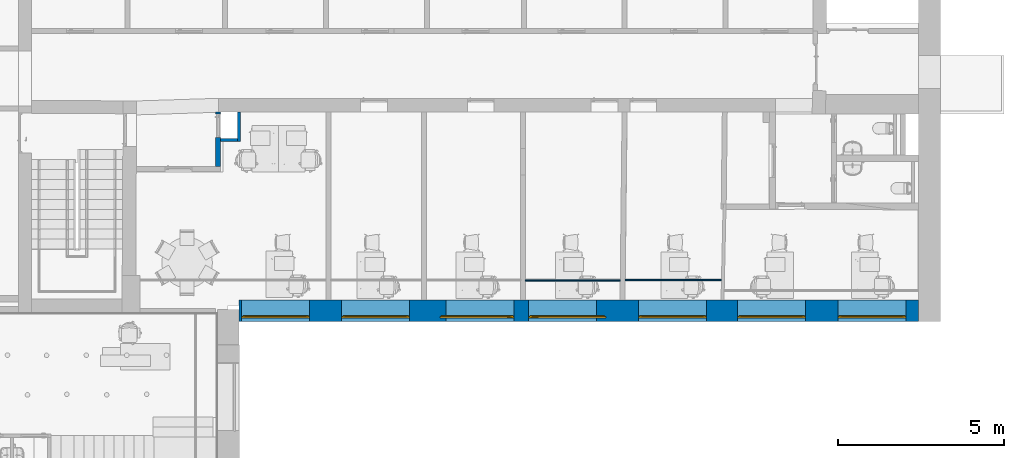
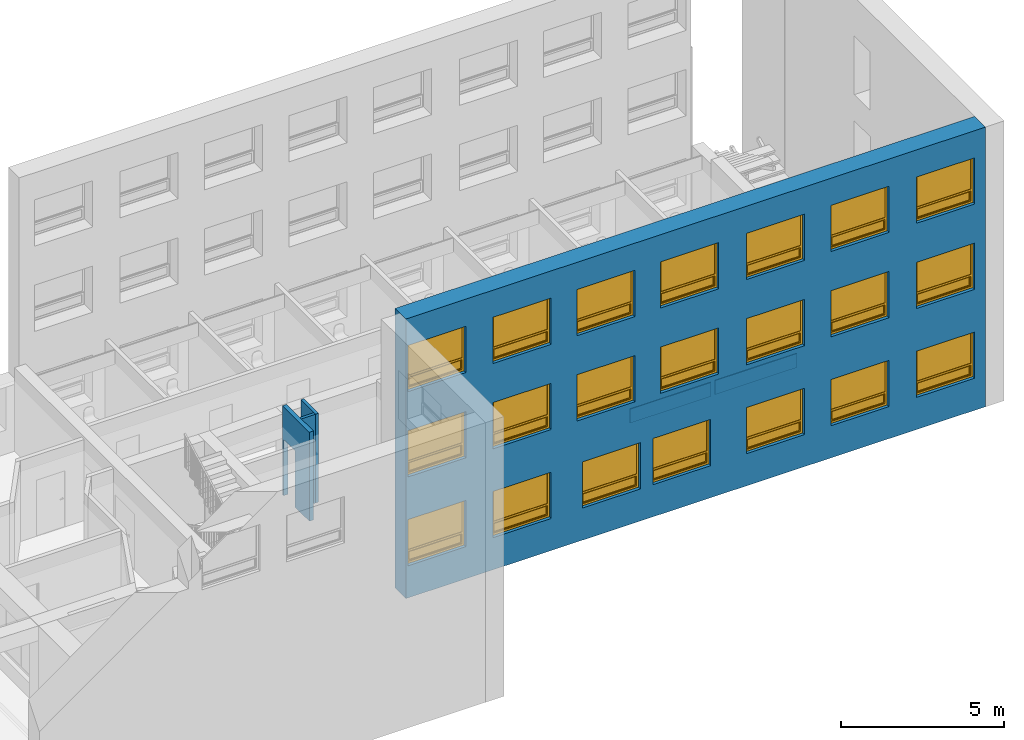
"""IFC2X3 building model written with IfcOpenShell, lengths in millimetres."""

import ifcopenshell
import ifcopenshell.guid

model = None  # the IFC model being written
_history = None  # IfcOwnerHistory: only IFC2X3 demands one
_inside = {}  # id of a spatial element -> (the spatial element, [elements in it])
_under = {}  # id of a project, library or spatial element -> (it, [spatial elements below it])
_declared = {}  # id of a project -> (the project, [libraries it declares])
_typed = {}  # id of a type object -> (the type object, [elements of that type])
_made_of = {}  # id of a material, layer set ... -> (it, [elements and type objects made of it])


def new_model(schema):
    """Start an empty IFC model of exactly this schema.

    Asked for "IFC4X3", IfcOpenShell would pick the latest addendum, in which some entities
    have other attributes; the version numbers below select the first issue.
    IFC2X3 requires an IfcOwnerHistory on every rooted entity: one is made here for all.
    """
    global model, _history
    if schema == "IFC4X3":
        model = ifcopenshell.file(schema_version=(4, 3, 0, 0))
    else:
        model = ifcopenshell.file(schema=schema)
    _inside.clear()
    _under.clear()
    _declared.clear()
    _typed.clear()
    _made_of.clear()
    _history = None
    if model.schema == "IFC2X3":
        org = make("IfcOrganization", Name="unknown")
        user = make(
            "IfcPersonAndOrganization",
            ThePerson=make("IfcPerson", FamilyName="unknown"),
            TheOrganization=org,
        )
        app = make(
            "IfcApplication",
            ApplicationDeveloper=org,
            Version="unknown",
            ApplicationFullName="unknown",
            ApplicationIdentifier="unknown",
        )
        _history = make(
            "IfcOwnerHistory",
            OwningUser=user,
            OwningApplication=app,
            ChangeAction="ADDED",
            CreationDate=0,
        )
    return model


def make(cls, **values):
    """One entity of the class cls with the attributes given. An attribute that is None is left unset."""
    return model.create_entity(
        cls, **{name: value for name, value in values.items() if value is not None}
    )


def entity(cls, *values):
    """Any entity or typed value of the class cls, its attributes in the order of the schema. None: left unset."""
    e = model.create_entity(cls)
    for i, value in enumerate(values):
        if value is not None:
            e[i] = value
    return e


def rooted(cls, **values):
    """An entity with a GlobalId (a new one), such as an element, a storey or a relation."""
    return make(cls, GlobalId=ifcopenshell.guid.new(), OwnerHistory=_history, **values)


def si_unit(unit_type, name, prefix=None):
    """IfcSIUnit, for example si_unit("LENGTHUNIT", "METRE", prefix="MILLI")."""
    return make("IfcSIUnit", UnitType=unit_type, Prefix=prefix, Name=name)


def converted_unit(unit_type, name, factor, base, dimensions=None, offset=None):
    """IfcConversionBasedUnit, such as the inch: factor (a typed value) times the base unit."""
    return make(
        "IfcConversionBasedUnit"
        if offset is None
        else "IfcConversionBasedUnitWithOffset",
        ConversionOffset=offset,
        Dimensions=None
        if dimensions is None
        else entity("IfcDimensionalExponents", *dimensions),
        UnitType=unit_type,
        Name=name,
        ConversionFactor=make(
            "IfcMeasureWithUnit", ValueComponent=factor, UnitComponent=base
        ),
    )


def derived_unit(unit_type, elements):
    """IfcDerivedUnit: a product of units, each with its exponent."""
    return make(
        "IfcDerivedUnit",
        Elements=[
            make("IfcDerivedUnitElement", Unit=unit, Exponent=power)
            for unit, power in elements
        ],
        UnitType=unit_type,
    )


def assignment(units):
    """IfcUnitAssignment: the units of a project."""
    return None if units is None else make("IfcUnitAssignment", Units=units)


def point(xyz):
    """IfcCartesianPoint."""
    return None if xyz is None else make("IfcCartesianPoint", Coordinates=xyz)


def direction(xyz):
    """IfcDirection."""
    return None if xyz is None else make("IfcDirection", DirectionRatios=xyz)


def frame(location, z_axis=None, x_axis=None):
    """IfcAxis2Placement3D, a coordinate frame: its origin and axes. An axis left out is left unset."""
    return make(
        "IfcAxis2Placement3D",
        Location=point(location),
        Axis=direction(z_axis),
        RefDirection=direction(x_axis),
    )


def frame_2d(location, x_axis=None):
    """IfcAxis2Placement2D, a coordinate frame in the plane: its origin and x axis."""
    return make(
        "IfcAxis2Placement2D", Location=point(location), RefDirection=direction(x_axis)
    )


def origin():
    """The frame at (0, 0, 0) with its axes left unset."""
    return frame((0.0, 0.0, 0.0))


def place(relative_to, where):
    """IfcLocalPlacement: puts the frame where relative to a parent placement (None: the world)."""
    return make(
        "IfcLocalPlacement", PlacementRelTo=relative_to, RelativePlacement=where
    )


def context(
    kind, dimensions, precision=None, world=None, true_north=None, identifier=None
):
    """IfcGeometricRepresentationContext, for example the 3D "Model" context."""
    return make(
        "IfcGeometricRepresentationContext",
        ContextIdentifier=identifier,
        ContextType=kind,
        CoordinateSpaceDimension=dimensions,
        Precision=precision,
        WorldCoordinateSystem=world,
        TrueNorth=true_north,
    )


def subcontext(parent, identifier, kind, view, scale=None):
    """IfcGeometricRepresentationSubContext, for example "Body" below "Model"."""
    return make(
        "IfcGeometricRepresentationSubContext",
        ContextIdentifier=identifier,
        ContextType=kind,
        ParentContext=parent,
        TargetScale=scale,
        TargetView=view,
    )


def project(units=None, contexts=None):
    """IfcProject with its units and contexts."""
    return rooted(
        "IfcProject",
        Name="project",
        RepresentationContexts=contexts,
        UnitsInContext=assignment(units),
    )


def spatial(cls, under=None, at=None, **own):
    """A site, building, storey or space (cls), placed at a placement, below another one or the project."""
    s = rooted(cls, ObjectPlacement=at, **own)
    if under is not None:
        _under.setdefault(under.id(), (under, []))[1].append(s)
    return s


def polyline(points):
    """IfcPolyline through the points."""
    return make("IfcPolyline", Points=[point(p) for p in points])


def profile(cls, at=None, kind="AREA", **sizes):
    """A parametric profile (cls). Its sizes go by their IFC names, for example OverallWidth=200.0."""
    return make(cls, ProfileType=kind, Position=at, **sizes)


def rectangle(**sizes):
    """IfcRectangleProfileDef."""
    return profile("IfcRectangleProfileDef", **sizes)


def outline(outer, holes=None, kind="AREA"):
    """IfcArbitraryClosedProfileDef: a profile drawn as a closed curve; with holes, ...WithVoids."""
    if holes is None:
        return make("IfcArbitraryClosedProfileDef", ProfileType=kind, OuterCurve=outer)
    return make(
        "IfcArbitraryProfileDefWithVoids",
        ProfileType=kind,
        OuterCurve=outer,
        InnerCurves=holes,
    )


def extrude(swept, where, along, depth):
    """IfcExtrudedAreaSolid: the profile swept, set in the frame where, extruded along a direction by depth."""
    return make(
        "IfcExtrudedAreaSolid",
        SweptArea=swept,
        Position=where,
        ExtrudedDirection=direction(along),
        Depth=depth,
    )


def faces_of(points, faces, orient=None, outer=None):
    """IfcFace entities. A face is a list of loops; a loop is a list of indices into points, from 0.

    orient and outer hold one flag for each loop. By default every Orientation is true, the
    first loop of a face is its IfcFaceOuterBound and the others are IfcFaceBound.
    """
    made = []
    for i, loops in enumerate(faces):
        bounds = []
        for j, loop in enumerate(loops):
            is_outer = j == 0 if outer is None else outer[i][j]
            bounds.append(
                make(
                    "IfcFaceOuterBound" if is_outer else "IfcFaceBound",
                    Bound=make("IfcPolyLoop", Polygon=[points[k] for k in loop]),
                    Orientation=True if orient is None else orient[i][j],
                )
            )
        made.append(make("IfcFace", Bounds=bounds))
    return made


def faceted_brep(points, faces, orient=None, outer=None, voids=None):
    """IfcFacetedBrep: a solid bounded by flat faces; with voids (closed shells), ...WithVoids."""
    shared = [point(p) for p in points]
    hull = make("IfcClosedShell", CfsFaces=faces_of(shared, faces, orient, outer))
    if voids is None:
        return make("IfcFacetedBrep", Outer=hull)
    return make(
        "IfcFacetedBrepWithVoids",
        Outer=hull,
        Voids=[
            make(cls, CfsFaces=faces_of(shared, fs, o, b)) for cls, fs, o, b in voids
        ],
    )


def shape(context_of_items, identifier, shape_type, items):
    """IfcShapeRepresentation: the items that make up one representation, for example the "Body"."""
    return make(
        "IfcShapeRepresentation",
        ContextOfItems=context_of_items,
        RepresentationIdentifier=identifier,
        RepresentationType=shape_type,
        Items=items,
    )


def source(mapping_origin, context_of_items, identifier, shape_type, items):
    """IfcRepresentationMap: a shape defined once, which mapped items show again and again."""
    return make(
        "IfcRepresentationMap",
        MappingOrigin=mapping_origin,
        MappedRepresentation=shape(context_of_items, identifier, shape_type, items),
    )


def transform(
    local_origin,
    x_axis=None,
    y_axis=None,
    z_axis=None,
    scale=None,
    scale2=None,
    scale3=None,
    uniform=True,
):
    """IfcCartesianTransformationOperator3D, or its non-uniform kind. x_axis, y_axis, z_axis: its Axis1, 2, 3."""
    if uniform:
        return make(
            "IfcCartesianTransformationOperator3D",
            Axis1=direction(x_axis),
            Axis2=direction(y_axis),
            LocalOrigin=point(local_origin),
            Scale=scale,
            Axis3=direction(z_axis),
        )
    return make(
        "IfcCartesianTransformationOperator3DnonUniform",
        Axis1=direction(x_axis),
        Axis2=direction(y_axis),
        LocalOrigin=point(local_origin),
        Scale=scale,
        Axis3=direction(z_axis),
        Scale2=scale2,
        Scale3=scale3,
    )


def mapped(mapping_source, mapping_target):
    """IfcMappedItem: shows the shape of a source again, moved by a transform."""
    return make(
        "IfcMappedItem", MappingSource=mapping_source, MappingTarget=mapping_target
    )


def material(Name=None, Category=None):
    """IfcMaterial."""
    return make("IfcMaterial", Name=Name, Category=Category)


def material_list(materials):
    """IfcMaterialList."""
    return make("IfcMaterialList", Materials=materials)


def layer(
    of_material, thickness, ventilated=None, Name=None, Category=None, Priority=None
):
    """IfcMaterialLayer: one layer of a wall or slab, of a material (None: an air gap)."""
    return make(
        "IfcMaterialLayer",
        Material=of_material,
        LayerThickness=thickness,
        IsVentilated=ventilated,
        Name=Name,
        Category=Category,
        Priority=Priority,
    )


def layer_set(layers, Name=None):
    """IfcMaterialLayerSet."""
    return make("IfcMaterialLayerSet", MaterialLayers=layers, LayerSetName=Name)


def layer_usage(for_layer_set, set_direction, sense, offset, extent=None):
    """IfcMaterialLayerSetUsage: how a layer set lies in its element."""
    return make(
        "IfcMaterialLayerSetUsage",
        ForLayerSet=for_layer_set,
        LayerSetDirection=set_direction,
        DirectionSense=sense,
        OffsetFromReferenceLine=offset,
        ReferenceExtent=extent,
    )


def made_of(thing, what):
    """Note that an element or type object is made of a material, layer set ...; save() writes the relation."""
    if what is not None:
        _made_of.setdefault(what.id(), (what, []))[1].append(thing)
    return thing


def type_object(cls, material=None, **own):
    """A type object (cls), such as IfcWallType, which elements share."""
    return made_of(rooted(cls, **own), material)


def type_shapes(of_type, sources):
    """Give a type object the sources (RepresentationMaps) that its elements show as mapped items."""
    of_type.RepresentationMaps = sources


def element(
    cls,
    number,
    at=None,
    inside=None,
    cuts=None,
    type_object=None,
    material=None,
    context=None,
    identifier="Body",
    shape_type=None,
    held_by="IfcProductDefinitionShape",
    body=None,
    shapes=None,
    **own,
):
    """One element of the class cls, such as IfcWall. Its Tag is "e" and its number.

    at: its placement. inside: the storey or other place that contains it. cuts: it is an
    opening in that element (IfcRelVoidsElement). A single representation is given by context,
    identifier, shape_type and body (its items); several are given by shapes. held_by: the class
    of the entity that holds the representations. save() writes the other relations.
    """
    e = rooted(cls, Tag="e%d" % number, ObjectPlacement=at, **own)
    if body is not None:
        shapes = [shape(context, identifier, shape_type, body)]
    if shapes is not None:
        e.Representation = make(held_by, Representations=shapes)
    if inside is not None:
        _inside.setdefault(inside.id(), (inside, []))[1].append(e)
    if cuts is not None:
        rooted(
            "IfcRelVoidsElement", RelatingBuildingElement=cuts, RelatedOpeningElement=e
        )
    if type_object is not None:
        _typed.setdefault(type_object.id(), (type_object, []))[1].append(e)
    return made_of(e, material)


def fill(opening, filler):
    """IfcRelFillsElement: the door or window that sits in an opening."""
    return rooted(
        "IfcRelFillsElement",
        RelatingOpeningElement=opening,
        RelatedBuildingElement=filler,
    )


def aggregate(whole, parts):
    """IfcRelAggregates: a whole, such as a stair, and the parts it consists of."""
    return rooted("IfcRelAggregates", RelatingObject=whole, RelatedObjects=parts)


def save(model, path):
    """Write the relations noted so far, then the file.

    IfcRelAggregates (storeys below a building ...), IfcRelContainedInSpatialStructure (elements
    in a storey), IfcRelDefinesByType, IfcRelAssociatesMaterial and IfcRelDeclares: one each for
    every whole, place, type object, material and project.
    """
    for whole, parts in _under.values():
        aggregate(whole, parts)
    for where, things in _inside.values():
        rooted(
            "IfcRelContainedInSpatialStructure",
            RelatedElements=things,
            RelatingStructure=where,
        )
    for kind, things in _typed.values():
        rooted("IfcRelDefinesByType", RelatedObjects=things, RelatingType=kind)
    for what, things in _made_of.values():
        rooted("IfcRelAssociatesMaterial", RelatedObjects=things, RelatingMaterial=what)
    for by, libraries in _declared.values():
        rooted("IfcRelDeclares", RelatingContext=by, RelatedDefinitions=libraries)
    model.write(path)


model = new_model("IFC2X3")

# Units and contexts
model_context = context("Model", 3, precision=0.01, world=origin(), true_north=direction((6.12303176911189e-17, 1.0)))
context_of_model = context(None, 3, precision=0.01, world=origin(), true_north=direction((6.12303176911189e-17, 1.0)))
body_context = subcontext(model_context, "Body", "Model", "MODEL_VIEW")
ifc_project = project(units=[si_unit("LENGTHUNIT", "METRE", prefix="MILLI"), si_unit("AREAUNIT", "SQUARE_METRE"), si_unit("VOLUMEUNIT", "CUBIC_METRE"), converted_unit("PLANEANGLEUNIT", "DEGREE", entity("IfcRatioMeasure", 0.0174532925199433), si_unit("PLANEANGLEUNIT", "RADIAN"), dimensions=[0, 0, 0, 0, 0, 0, 0]), si_unit("MASSUNIT", "GRAM", prefix="KILO"), derived_unit("MASSDENSITYUNIT", [(si_unit("MASSUNIT", "GRAM", prefix="KILO"), 1), (si_unit("LENGTHUNIT", "METRE"), -3)]), si_unit("TIMEUNIT", "SECOND"), si_unit("FREQUENCYUNIT", "HERTZ"), si_unit("THERMODYNAMICTEMPERATUREUNIT", "DEGREE_CELSIUS"), derived_unit("THERMALTRANSMITTANCEUNIT", [(si_unit("MASSUNIT", "GRAM", prefix="KILO"), 1), (si_unit("THERMODYNAMICTEMPERATUREUNIT", "KELVIN"), -1), (si_unit("TIMEUNIT", "SECOND"), -3)]), derived_unit("VOLUMETRICFLOWRATEUNIT", [(si_unit("LENGTHUNIT", "METRE"), 3), (si_unit("TIMEUNIT", "SECOND"), -1)]), si_unit("ELECTRICCURRENTUNIT", "AMPERE"), si_unit("ELECTRICVOLTAGEUNIT", "VOLT"), si_unit("POWERUNIT", "WATT"), si_unit("FORCEUNIT", "NEWTON", prefix="KILO"), si_unit("ILLUMINANCEUNIT", "LUX"), si_unit("LUMINOUSFLUXUNIT", "LUMEN"), si_unit("LUMINOUSINTENSITYUNIT", "CANDELA"), derived_unit("USERDEFINED", [(si_unit("MASSUNIT", "GRAM", prefix="KILO"), -1), (si_unit("LENGTHUNIT", "METRE"), -2), (si_unit("TIMEUNIT", "SECOND"), 3), (si_unit("LUMINOUSFLUXUNIT", "LUMEN"), 1)]), derived_unit("LINEARVELOCITYUNIT", [(si_unit("LENGTHUNIT", "METRE"), 1), (si_unit("TIMEUNIT", "SECOND"), -1)]), si_unit("PRESSUREUNIT", "PASCAL"), derived_unit("USERDEFINED", [(si_unit("LENGTHUNIT", "METRE"), -2), (si_unit("MASSUNIT", "GRAM", prefix="KILO"), 1), (si_unit("TIMEUNIT", "SECOND"), -2)])], contexts=[model_context, context_of_model])

# Site, building, storey
site_placement = place(None, frame((121442.264707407, 135347.995453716, -1800.0)))
site = spatial("IfcSite", under=ifc_project, at=site_placement, Name="Surface", CompositionType="ELEMENT")
building_placement = place(site_placement, origin())
building = spatial("IfcBuilding", under=site, at=building_placement, CompositionType="ELEMENT")
storey_1_placement = place(building_placement, frame((0.0, 0.0, 1800.0)))
storey_1 = spatial("IfcBuildingStorey", under=building, at=storey_1_placement, Name="1 korrus", CompositionType="ELEMENT", Elevation=1800.00000000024)

# Wall, openings, windows
ifc_material_1 = material(Name="Plaster")
ifc_layer_1 = layer(ifc_material_1, 10.0)
ifc_material_2 = material(Name="Polystyrene")
ifc_layer_2 = layer(ifc_material_2, 150.0)
ifc_material_3 = material(Name="__Betoonelement")
ifc_layer_3 = layer(ifc_material_3, 500.0)
ifc_layer_set_1 = layer_set([ifc_layer_1, ifc_layer_2, ifc_layer_3], Name="Basic Wall:Olemasolev Soojustatud Välissein")
ifc_layer_usage_1 = layer_usage(ifc_layer_set_1, "AXIS2", "NEGATIVE", 330.0)
wall_type_1 = type_object("IfcWallType", Name="Basic Wall:Olemasolev Soojustatud Välissein", PredefinedType="STANDARD", material=ifc_layer_set_1)
wall_1_placement = place(storey_1_placement, frame((-82525.9803800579, -127465.981015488, -300.0), z_axis=(0.0, 0.0, 1.0), x_axis=(-1.0, 0.0, 0.0)))
wall_1 = element("IfcWallStandardCase", 1, at=wall_1_placement, inside=storey_1, type_object=wall_type_1, material=ifc_layer_usage_1, Name="Basic Wall:Olemasolev Soojustatud Välissein", ObjectType="Basic Wall:Olemasolev Soojustatud Välissein", context=body_context, shape_type="SweptSolid", body=[
    extrude(rectangle(XDim=20504.4895044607, YDim=659.999999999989, at=frame_2d((10252.2447522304, 0.0), x_axis=(-1.0, 0.0))), origin(), (0.0, 0.0, 1.0), 10460.0),
])
opening_1_placement = place(wall_1_placement, frame((18376.9337872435, -330.0, 7715.0)))
opening_1 = element("IfcOpeningElement", 2, at=opening_1_placement, cuts=wall_1, Name="sma_W2:A-1* 2050 x 1730mm Avatav:1", ObjectType="Opening", context=body_context, shape_type="SweptSolid", body=[
    extrude(rectangle(XDim=1730.0, YDim=2050.0, at=frame_2d((865.0, 1025.0), x_axis=(1.0, 0.0))), frame((0.0, 0.0, 0.0), z_axis=(0.0, 1.0, 0.0), x_axis=(0.0, 0.0, 1.0)), (0.0, 0.0, 1.0), 660.0),
])
opening_2_placement = place(wall_1_placement, frame((3410.0, -330.0, 7715.0)))
opening_2 = element("IfcOpeningElement", 3, at=opening_2_placement, cuts=wall_1, Name="sma_W2:A-1* 2050 x 1730mm Avatav:1", ObjectType="Opening", context=body_context, shape_type="SweptSolid", body=[
    extrude(rectangle(XDim=1730.0, YDim=2050.0, at=frame_2d((865.0, 1025.0), x_axis=(1.0, 0.0))), frame((0.0, 0.0, 0.0), z_axis=(0.0, 1.0, 0.0), x_axis=(0.0, 0.0, 1.0)), (0.0, 0.0, 1.0), 660.0),
])
opening_3_placement = place(wall_1_placement, frame((6400.0, -330.0, 7715.0)))
opening_3 = element("IfcOpeningElement", 4, at=opening_3_placement, cuts=wall_1, Name="sma_W2:A-1* 2050 x 1730mm Avatav:1", ObjectType="Opening", context=body_context, shape_type="SweptSolid", body=[
    extrude(rectangle(XDim=1730.0, YDim=2050.0, at=frame_2d((865.0, 1025.0), x_axis=(1.0, 0.0))), frame((0.0, 0.0, 0.0), z_axis=(0.0, 1.0, 0.0), x_axis=(0.0, 0.0, 1.0)), (0.0, 0.0, 1.0), 660.0),
])
opening_4_placement = place(wall_1_placement, frame((6400.0, -330.0, 4525.0)))
opening_4 = element("IfcOpeningElement", 5, at=opening_4_placement, cuts=wall_1, Name="sma_W2:A-1* 2050 x 1730mm Avatav:1", ObjectType="Opening", context=body_context, shape_type="SweptSolid", body=[
    extrude(rectangle(XDim=1730.0, YDim=2050.0, at=frame_2d((865.0, 1025.0), x_axis=(1.0, 0.0))), frame((0.0, 0.0, 0.0), z_axis=(0.0, 1.0, 0.0), x_axis=(0.0, 0.0, 1.0)), (0.0, 0.0, 1.0), 660.0),
])
opening_5_placement = place(wall_1_placement, frame((9436.62368488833, -330.0, 4525.0)))
opening_5 = element("IfcOpeningElement", 6, at=opening_5_placement, cuts=wall_1, Name="sma_W2:A-1* 2050 x 1730mm Avatav:1", ObjectType="Opening", context=body_context, shape_type="SweptSolid", body=[
    extrude(rectangle(XDim=1730.0, YDim=2050.0, at=frame_2d((865.0, 1025.0), x_axis=(1.0, 0.0))), frame((0.0, 0.0, 0.0), z_axis=(0.0, 1.0, 0.0), x_axis=(0.0, 0.0, 1.0)), (0.0, 0.0, 1.0), 660.0),
])
opening_6_placement = place(wall_1_placement, frame((12399.6521520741, -330.0, 4525.0)))
opening_6 = element("IfcOpeningElement", 7, at=opening_6_placement, cuts=wall_1, Name="sma_W2:A-1* 2050 x 1730mm Avatav:1", ObjectType="Opening", context=body_context, shape_type="SweptSolid", body=[
    extrude(rectangle(XDim=1730.0, YDim=2050.0, at=frame_2d((865.0, 1025.0), x_axis=(1.0, 0.0))), frame((0.0, 0.0, 0.0), z_axis=(0.0, 1.0, 0.0), x_axis=(0.0, 0.0, 1.0)), (0.0, 0.0, 1.0), 660.0),
])
opening_7_placement = place(wall_1_placement, frame((3410.0, -330.0, 4525.0)))
opening_7 = element("IfcOpeningElement", 8, at=opening_7_placement, cuts=wall_1, Name="sma_W2:A-1* 2050 x 1730mm Avatav:1", ObjectType="Opening", context=body_context, shape_type="SweptSolid", body=[
    extrude(rectangle(XDim=1730.0, YDim=2050.0, at=frame_2d((865.0, 1025.0), x_axis=(1.0, 0.0))), frame((0.0, 0.0, 0.0), z_axis=(0.0, 1.0, 0.0), x_axis=(0.0, 0.0, 1.0)), (0.0, 0.0, 1.0), 660.0),
])
opening_8_placement = place(wall_1_placement, frame((380.0, -330.0, 1200.0)))
opening_8 = element("IfcOpeningElement", 9, at=opening_8_placement, cuts=wall_1, Name="sma_W2:A-1* 2050 x 1730mm Avatav:1", ObjectType="Opening", context=body_context, shape_type="SweptSolid", body=[
    extrude(rectangle(XDim=1730.0, YDim=2050.0, at=frame_2d((865.0, 1025.0), x_axis=(1.0, 0.0))), frame((0.0, 0.0, 0.0), z_axis=(0.0, 1.0, 0.0), x_axis=(0.0, 0.0, 1.0)), (0.0, 0.0, 1.0), 660.0),
])
opening_9_placement = place(wall_1_placement, frame((3410.0, -330.0, 1200.0)))
opening_9 = element("IfcOpeningElement", 10, at=opening_9_placement, cuts=wall_1, Name="sma_W2:A-1* 2050 x 1730mm Avatav:1", ObjectType="Opening", context=body_context, shape_type="SweptSolid", body=[
    extrude(rectangle(XDim=1730.0, YDim=2050.0, at=frame_2d((865.0, 1025.0), x_axis=(1.0, 0.0))), frame((0.0, 0.0, 0.0), z_axis=(0.0, 1.0, 0.0), x_axis=(0.0, 0.0, 1.0)), (0.0, 0.0, 1.0), 660.0),
])
opening_10_placement = place(wall_1_placement, frame((6400.0, -330.0, 1200.0)))
opening_10 = element("IfcOpeningElement", 11, at=opening_10_placement, cuts=wall_1, Name="sma_W2:A-1* 2050 x 1730mm Avatav:1", ObjectType="Opening", context=body_context, shape_type="SweptSolid", body=[
    extrude(rectangle(XDim=1730.0, YDim=2050.0, at=frame_2d((865.0, 1025.0), x_axis=(1.0, 0.0))), frame((0.0, 0.0, 0.0), z_axis=(0.0, 1.0, 0.0), x_axis=(0.0, 0.0, 1.0)), (0.0, 0.0, 1.0), 660.0),
])
opening_11_placement = place(wall_1_placement, frame((9716.62368488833, -330.0, 1200.0)))
opening_11 = element("IfcOpeningElement", 12, at=opening_11_placement, cuts=wall_1, Name="sma_W2:A-1* 2050 x 1730mm Avatav:1", ObjectType="Opening", context=body_context, shape_type="SweptSolid", body=[
    extrude(rectangle(XDim=1730.0, YDim=2050.0, at=frame_2d((865.0, 1025.0), x_axis=(1.0, 0.0))), frame((0.0, 0.0, 0.0), z_axis=(0.0, 1.0, 0.0), x_axis=(0.0, 0.0, 1.0)), (0.0, 0.0, 1.0), 660.0),
])
opening_12_placement = place(wall_1_placement, frame((12206.6236848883, -330.0, 1200.0)))
opening_12 = element("IfcOpeningElement", 13, at=opening_12_placement, cuts=wall_1, Name="sma_W2:A-1* 2050 x 1730mm Avatav:1", ObjectType="Opening", context=body_context, shape_type="SweptSolid", body=[
    extrude(rectangle(XDim=1730.0, YDim=2050.0, at=frame_2d((865.0, 1025.0), x_axis=(1.0, 0.0))), frame((0.0, 0.0, 0.0), z_axis=(0.0, 1.0, 0.0), x_axis=(0.0, 0.0, 1.0)), (0.0, 0.0, 1.0), 660.0),
])
opening_13_placement = place(wall_1_placement, frame((15362.6806192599, -330.0, 1200.0)))
opening_13 = element("IfcOpeningElement", 14, at=opening_13_placement, cuts=wall_1, Name="sma_W2:A-1* 2050 x 1730mm Avatav:1", ObjectType="Opening", context=body_context, shape_type="SweptSolid", body=[
    extrude(rectangle(XDim=1730.0, YDim=2050.0, at=frame_2d((865.0, 1025.0), x_axis=(1.0, 0.0))), frame((0.0, 0.0, 0.0), z_axis=(0.0, 1.0, 0.0), x_axis=(0.0, 0.0, 1.0)), (0.0, 0.0, 1.0), 660.0),
])
opening_14_placement = place(wall_1_placement, frame((18376.9337872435, -330.0, 1200.0)))
opening_14 = element("IfcOpeningElement", 15, at=opening_14_placement, cuts=wall_1, Name="sma_W2:A-1* 2050 x 1730mm Avatav:1", ObjectType="Opening", context=body_context, shape_type="SweptSolid", body=[
    extrude(rectangle(XDim=1730.0, YDim=2050.0, at=frame_2d((865.0, 1025.0), x_axis=(1.0, 0.0))), frame((0.0, 0.0, 0.0), z_axis=(0.0, 1.0, 0.0), x_axis=(0.0, 0.0, 1.0)), (0.0, 0.0, 1.0), 660.0),
])
opening_15_placement = place(wall_1_placement, frame((380.0, -330.0, 4525.0)))
opening_15 = element("IfcOpeningElement", 16, at=opening_15_placement, cuts=wall_1, Name="sma_W2:A-1* 2050 x 1730mm Avatav:1", ObjectType="Opening", context=body_context, shape_type="SweptSolid", body=[
    extrude(rectangle(XDim=1730.0, YDim=2050.0, at=frame_2d((865.0, 1025.0), x_axis=(1.0, 0.0))), frame((0.0, 0.0, 0.0), z_axis=(0.0, 1.0, 0.0), x_axis=(0.0, 0.0, 1.0)), (0.0, 0.0, 1.0), 660.0),
])
opening_16_placement = place(wall_1_placement, frame((15362.6806192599, -330.0, 4525.0)))
opening_16 = element("IfcOpeningElement", 17, at=opening_16_placement, cuts=wall_1, Name="sma_W2:A-1* 2050 x 1730mm Avatav:1", ObjectType="Opening", context=body_context, shape_type="SweptSolid", body=[
    extrude(rectangle(XDim=1730.0, YDim=2050.0, at=frame_2d((865.0, 1025.0), x_axis=(1.0, 0.0))), frame((0.0, 0.0, 0.0), z_axis=(0.0, 1.0, 0.0), x_axis=(0.0, 0.0, 1.0)), (0.0, 0.0, 1.0), 660.0),
])
opening_17_placement = place(wall_1_placement, frame((18376.9337872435, -330.0, 4525.0)))
opening_17 = element("IfcOpeningElement", 18, at=opening_17_placement, cuts=wall_1, Name="sma_W2:A-1* 2050 x 1730mm Avatav:1", ObjectType="Opening", context=body_context, shape_type="SweptSolid", body=[
    extrude(rectangle(XDim=1730.0, YDim=2050.0, at=frame_2d((865.0, 1025.0), x_axis=(1.0, 0.0))), frame((0.0, 0.0, 0.0), z_axis=(0.0, 1.0, 0.0), x_axis=(0.0, 0.0, 1.0)), (0.0, 0.0, 1.0), 660.0),
])
opening_18_placement = place(wall_1_placement, frame((380.0, -330.0, 7715.0)))
opening_18 = element("IfcOpeningElement", 19, at=opening_18_placement, cuts=wall_1, Name="sma_W2:A-1* 2050 x 1730mm Avatav:1", ObjectType="Opening", context=body_context, shape_type="SweptSolid", body=[
    extrude(rectangle(XDim=1730.0, YDim=2050.0, at=frame_2d((865.0, 1025.0), x_axis=(1.0, 0.0))), frame((0.0, 0.0, 0.0), z_axis=(0.0, 1.0, 0.0), x_axis=(0.0, 0.0, 1.0)), (0.0, 0.0, 1.0), 660.0),
])
opening_19_placement = place(wall_1_placement, frame((9436.62368488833, -330.0, 7715.0)))
opening_19 = element("IfcOpeningElement", 20, at=opening_19_placement, cuts=wall_1, Name="sma_W2:A-1* 2050 x 1730mm Avatav:1", ObjectType="Opening", context=body_context, shape_type="SweptSolid", body=[
    extrude(rectangle(XDim=1730.0, YDim=2050.0, at=frame_2d((865.0, 1025.0), x_axis=(1.0, 0.0))), frame((0.0, 0.0, 0.0), z_axis=(0.0, 1.0, 0.0), x_axis=(0.0, 0.0, 1.0)), (0.0, 0.0, 1.0), 660.0),
])
opening_20_placement = place(wall_1_placement, frame((12399.6521520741, -330.0, 7715.0)))
opening_20 = element("IfcOpeningElement", 21, at=opening_20_placement, cuts=wall_1, Name="sma_W2:A-1* 2050 x 1730mm Avatav:1", ObjectType="Opening", context=body_context, shape_type="SweptSolid", body=[
    extrude(rectangle(XDim=1730.0, YDim=2050.0, at=frame_2d((865.0, 1025.0), x_axis=(1.0, 0.0))), frame((0.0, 0.0, 0.0), z_axis=(0.0, 1.0, 0.0), x_axis=(0.0, 0.0, 1.0)), (0.0, 0.0, 1.0), 660.0),
])
opening_21_placement = place(wall_1_placement, frame((15362.6806192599, -330.0, 7715.0)))
opening_21 = element("IfcOpeningElement", 22, at=opening_21_placement, cuts=wall_1, Name="sma_W2:A-1* 2050 x 1730mm Avatav:1", ObjectType="Opening", context=body_context, shape_type="SweptSolid", body=[
    extrude(rectangle(XDim=1730.0, YDim=2050.0, at=frame_2d((865.0, 1025.0), x_axis=(1.0, 0.0))), frame((0.0, 0.0, 0.0), z_axis=(0.0, 1.0, 0.0), x_axis=(0.0, 0.0, 1.0)), (0.0, 0.0, 1.0), 660.0),
])
ifc_material_4 = material(Name="PVC")
ifc_material_5 = material(Name="Glass")
ifc_material_list_1 = material_list([ifc_material_4, ifc_material_5])
ifc_material_list_2 = material_list([ifc_material_4, ifc_material_5])
window_style = type_object("IfcWindowStyle", Name="A-1* 2050 x 1730mm Avatav", ConstructionType="OTHER_CONSTRUCTION", OperationType="NOTDEFINED", ParameterTakesPrecedence=False, Sizeable=False, material=ifc_material_list_2)
shared_shape = source(origin(), body_context, "Body", "Brep", [
    faceted_brep([(0.0, 499.759876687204, 0.0), (2050.0, 499.759876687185, 0.0), (2050.0, 499.759876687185, 1730.0), (0.0, 499.759876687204, 1730.0), (35.0, 499.759876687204, 35.0), (35.0, 499.759876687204, 480.0), (2015.0, 499.759876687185, 480.0), (2015.0, 499.759876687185, 35.0), (1980.0, 499.759876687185, 515.0), (70.0, 499.759876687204, 515.0), (70.0, 499.759876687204, 1660.0), (1980.0, 499.759876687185, 1660.0), (0.0, 549.759876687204, 0.0), (2050.0, 549.759876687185, 0.0), (2050.0, 549.759876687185, 1730.0), (0.0, 549.759876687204, 1730.0), (35.0, 524.759876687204, 35.0), (35.0, 524.759876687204, 480.0), (2015.0, 524.759876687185, 480.0), (2015.0, 524.759876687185, 35.0), (70.0, 549.759876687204, 70.0), (1980.0, 549.759876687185, 70.0), (1980.0, 549.759876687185, 445.0), (70.0, 549.759876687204, 445.0), (1980.0, 549.759876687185, 515.0), (1980.0, 549.759876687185, 1660.0), (70.0, 549.759876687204, 1660.0), (70.0, 549.759876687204, 515.0), (70.0, 524.759876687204, 70.0), (1980.0, 524.759876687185, 70.0), (1980.0, 524.759876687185, 445.0), (70.0, 524.759876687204, 445.0)], [[[0, 1, 2, 3], [4, 5, 6, 7], [8, 9, 10, 11]], [[1, 0, 12, 13]], [[2, 1, 13, 14]], [[0, 3, 15, 12]], [[16, 17, 5, 4]], [[17, 18, 6, 5]], [[18, 19, 7, 6]], [[19, 16, 4, 7]], [[12, 15, 14, 13], [20, 21, 22, 23], [24, 25, 26, 27]], [[21, 20, 28, 29]], [[22, 21, 29, 30]], [[23, 22, 30, 31]], [[20, 23, 31, 28]], [[17, 16, 19, 18], [28, 31, 30, 29]], [[3, 2, 14, 15]], [[10, 9, 27, 26]], [[11, 10, 26, 25]], [[8, 11, 25, 24]], [[9, 8, 24, 27]]]),
    faceted_brep([(105.0, 489.759876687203, 105.0), (1945.0, 489.759876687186, 105.0), (1945.0, 489.759876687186, 410.0), (105.0, 489.759876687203, 410.0), (105.0, 509.759876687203, 105.0), (105.0, 509.759876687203, 410.0), (1945.0, 509.759876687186, 410.0), (1945.0, 509.759876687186, 105.0)], [[[0, 1, 2, 3]], [[4, 5, 6, 7]], [[1, 0, 4, 7]], [[2, 1, 7, 6]], [[3, 2, 6, 5]], [[0, 3, 5, 4]]]),
    faceted_brep([(35.0, 474.759876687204, 35.0), (2015.0, 474.759876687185, 35.0), (2015.0, 474.759876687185, 480.0), (35.0, 474.759876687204, 480.0), (105.0, 474.759876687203, 105.0), (105.0, 474.759876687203, 410.0), (1945.0, 474.759876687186, 410.0), (1945.0, 474.759876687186, 105.0), (35.0, 524.759876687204, 35.0), (35.0, 524.759876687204, 480.0), (2015.0, 524.759876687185, 480.0), (2015.0, 524.759876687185, 35.0), (105.0, 524.759876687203, 105.0), (1945.0, 524.759876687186, 105.0), (1945.0, 524.759876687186, 410.0), (105.0, 524.759876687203, 410.0)], [[[0, 1, 2, 3], [4, 5, 6, 7]], [[8, 9, 10, 11], [12, 13, 14, 15]], [[1, 0, 8, 11]], [[2, 1, 11, 10]], [[3, 2, 10, 9]], [[0, 3, 9, 8]], [[5, 4, 12, 15]], [[6, 5, 15, 14]], [[7, 6, 14, 13]], [[4, 7, 13, 12]]]),
    faceted_brep([(70.0, 514.759876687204, 515.0), (1980.0, 514.759876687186, 515.0), (1980.0, 514.759876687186, 1660.0), (70.0, 514.759876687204, 1660.0), (1980.0, 534.759876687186, 515.0), (1980.0, 534.759876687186, 1660.0), (70.0, 534.759876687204, 1660.0), (70.0, 534.759876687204, 515.0)], [[[0, 1, 2, 3]], [[2, 1, 4, 5]], [[3, 2, 5, 6]], [[0, 3, 6, 7]], [[7, 6, 5, 4]], [[1, 0, 7, 4]]]),
])
type_shapes(window_style, [shared_shape])
window_1_placement = place(opening_8_placement, origin())
window_1 = element("IfcWindow", 23, at=window_1_placement, inside=storey_1, type_object=window_style, material=ifc_material_list_1, Name="sma_W2:A-1* 2050 x 1730mm Avatav", ObjectType="A-1* 2050 x 1730mm Avatav", OverallHeight=1730.0, OverallWidth=2050.0, context=body_context, shape_type="MappedRepresentation", body=[
    mapped(shared_shape, transform((0.0, 0.0, 0.0), scale=1.0)),
])
fill(opening_8, window_1)
ifc_material_list_3 = material_list([ifc_material_4, ifc_material_5])
window_2_placement = place(opening_9_placement, origin())
window_2 = element("IfcWindow", 24, at=window_2_placement, inside=storey_1, type_object=window_style, material=ifc_material_list_3, Name="sma_W2:A-1* 2050 x 1730mm Avatav", ObjectType="A-1* 2050 x 1730mm Avatav", OverallHeight=1730.0, OverallWidth=2050.0, context=body_context, shape_type="MappedRepresentation", body=[
    mapped(shared_shape, transform((0.0, 0.0, 0.0), scale=1.0)),
])
fill(opening_9, window_2)
ifc_material_list_4 = material_list([ifc_material_4, ifc_material_5])
window_3_placement = place(opening_10_placement, origin())
window_3 = element("IfcWindow", 25, at=window_3_placement, inside=storey_1, type_object=window_style, material=ifc_material_list_4, Name="sma_W2:A-1* 2050 x 1730mm Avatav", ObjectType="A-1* 2050 x 1730mm Avatav", OverallHeight=1730.0, OverallWidth=2050.0, context=body_context, shape_type="MappedRepresentation", body=[
    mapped(shared_shape, transform((0.0, 0.0, 0.0), scale=1.0)),
])
fill(opening_10, window_3)
ifc_material_list_5 = material_list([ifc_material_4, ifc_material_5])
window_4_placement = place(opening_11_placement, origin())
window_4 = element("IfcWindow", 26, at=window_4_placement, inside=storey_1, type_object=window_style, material=ifc_material_list_5, Name="sma_W2:A-1* 2050 x 1730mm Avatav", ObjectType="A-1* 2050 x 1730mm Avatav", OverallHeight=1730.0, OverallWidth=2050.0, context=body_context, shape_type="MappedRepresentation", body=[
    mapped(shared_shape, transform((0.0, 0.0, 0.0), scale=1.0)),
])
fill(opening_11, window_4)
ifc_material_list_6 = material_list([ifc_material_4, ifc_material_5])
window_5_placement = place(opening_12_placement, origin())
window_5 = element("IfcWindow", 27, at=window_5_placement, inside=storey_1, type_object=window_style, material=ifc_material_list_6, Name="sma_W2:A-1* 2050 x 1730mm Avatav", ObjectType="A-1* 2050 x 1730mm Avatav", OverallHeight=1730.0, OverallWidth=2050.0, context=body_context, shape_type="MappedRepresentation", body=[
    mapped(shared_shape, transform((0.0, 0.0, 0.0), scale=1.0)),
])
fill(opening_12, window_5)
ifc_material_list_7 = material_list([ifc_material_4, ifc_material_5])
window_6_placement = place(opening_13_placement, origin())
window_6 = element("IfcWindow", 28, at=window_6_placement, inside=storey_1, type_object=window_style, material=ifc_material_list_7, Name="sma_W2:A-1* 2050 x 1730mm Avatav", ObjectType="A-1* 2050 x 1730mm Avatav", OverallHeight=1730.0, OverallWidth=2050.0, context=body_context, shape_type="MappedRepresentation", body=[
    mapped(shared_shape, transform((0.0, 0.0, 0.0), scale=1.0)),
])
fill(opening_13, window_6)
ifc_material_list_8 = material_list([ifc_material_4, ifc_material_5])
window_7_placement = place(opening_14_placement, origin())
window_7 = element("IfcWindow", 29, at=window_7_placement, inside=storey_1, type_object=window_style, material=ifc_material_list_8, Name="sma_W2:A-1* 2050 x 1730mm Avatav", ObjectType="A-1* 2050 x 1730mm Avatav", OverallHeight=1730.0, OverallWidth=2050.0, context=body_context, shape_type="MappedRepresentation", body=[
    mapped(shared_shape, transform((0.0, 0.0, 0.0), scale=1.0)),
])
fill(opening_14, window_7)

# Storey
storey_2_placement = place(building_placement, frame((0.0, 0.0, 5125.0)))
storey_2 = spatial("IfcBuildingStorey", under=building, at=storey_2_placement, Name="2 korrus", CompositionType="ELEMENT", Elevation=5125.00000000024)

# Window
ifc_material_list_9 = material_list([ifc_material_4, ifc_material_5])
window_8_placement = place(opening_15_placement, origin())
window_8 = element("IfcWindow", 30, at=window_8_placement, inside=storey_2, type_object=window_style, material=ifc_material_list_9, Name="sma_W2:A-1* 2050 x 1730mm Avatav", ObjectType="A-1* 2050 x 1730mm Avatav", OverallHeight=1730.0, OverallWidth=2050.0, context=body_context, shape_type="MappedRepresentation", body=[
    mapped(shared_shape, transform((0.0, 0.0, 0.0), scale=1.0)),
])

fill(opening_15, window_8)

ifc_material_list_10 = material_list([ifc_material_4, ifc_material_5])
window_9_placement = place(opening_7_placement, origin())
window_9 = element("IfcWindow", 31, at=window_9_placement, inside=storey_2, type_object=window_style, material=ifc_material_list_10, Name="sma_W2:A-1* 2050 x 1730mm Avatav", ObjectType="A-1* 2050 x 1730mm Avatav", OverallHeight=1730.0, OverallWidth=2050.0, context=body_context, shape_type="MappedRepresentation", body=[
    mapped(shared_shape, transform((0.0, 0.0, 0.0), scale=1.0)),
])

fill(opening_7, window_9)

ifc_material_list_11 = material_list([ifc_material_4, ifc_material_5])
window_10_placement = place(opening_4_placement, origin())
window_10 = element("IfcWindow", 32, at=window_10_placement, inside=storey_2, type_object=window_style, material=ifc_material_list_11, Name="sma_W2:A-1* 2050 x 1730mm Avatav", ObjectType="A-1* 2050 x 1730mm Avatav", OverallHeight=1730.0, OverallWidth=2050.0, context=body_context, shape_type="MappedRepresentation", body=[
    mapped(shared_shape, transform((0.0, 0.0, 0.0), scale=1.0)),
])

fill(opening_4, window_10)

ifc_material_list_12 = material_list([ifc_material_4, ifc_material_5])
window_11_placement = place(opening_5_placement, origin())
window_11 = element("IfcWindow", 33, at=window_11_placement, inside=storey_2, type_object=window_style, material=ifc_material_list_12, Name="sma_W2:A-1* 2050 x 1730mm Avatav", ObjectType="A-1* 2050 x 1730mm Avatav", OverallHeight=1730.0, OverallWidth=2050.0, context=body_context, shape_type="MappedRepresentation", body=[
    mapped(shared_shape, transform((0.0, 0.0, 0.0), scale=1.0)),
])

fill(opening_5, window_11)

ifc_material_list_13 = material_list([ifc_material_4, ifc_material_5])
window_12_placement = place(opening_6_placement, origin())
window_12 = element("IfcWindow", 34, at=window_12_placement, inside=storey_2, type_object=window_style, material=ifc_material_list_13, Name="sma_W2:A-1* 2050 x 1730mm Avatav", ObjectType="A-1* 2050 x 1730mm Avatav", OverallHeight=1730.0, OverallWidth=2050.0, context=body_context, shape_type="MappedRepresentation", body=[
    mapped(shared_shape, transform((0.0, 0.0, 0.0), scale=1.0)),
])

fill(opening_6, window_12)

ifc_material_list_14 = material_list([ifc_material_4, ifc_material_5])
window_13_placement = place(opening_16_placement, origin())
window_13 = element("IfcWindow", 35, at=window_13_placement, inside=storey_2, type_object=window_style, material=ifc_material_list_14, Name="sma_W2:A-1* 2050 x 1730mm Avatav", ObjectType="A-1* 2050 x 1730mm Avatav", OverallHeight=1730.0, OverallWidth=2050.0, context=body_context, shape_type="MappedRepresentation", body=[
    mapped(shared_shape, transform((0.0, 0.0, 0.0), scale=1.0)),
])

fill(opening_16, window_13)

ifc_material_list_15 = material_list([ifc_material_4, ifc_material_5])
window_14_placement = place(opening_17_placement, origin())
window_14 = element("IfcWindow", 36, at=window_14_placement, inside=storey_2, type_object=window_style, material=ifc_material_list_15, Name="sma_W2:A-1* 2050 x 1730mm Avatav", ObjectType="A-1* 2050 x 1730mm Avatav", OverallHeight=1730.0, OverallWidth=2050.0, context=body_context, shape_type="MappedRepresentation", body=[
    mapped(shared_shape, transform((0.0, 0.0, 0.0), scale=1.0)),
])

fill(opening_17, window_14)

# Storey
storey_3_placement = place(building_placement, frame((0.0, 0.0, 8315.0)))
storey_3 = spatial("IfcBuildingStorey", under=building, at=storey_3_placement, Name="3 korrus", CompositionType="ELEMENT", Elevation=8315.00000000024)

# Window
ifc_material_list_16 = material_list([ifc_material_4, ifc_material_5])
window_15_placement = place(opening_18_placement, origin())
window_15 = element("IfcWindow", 37, at=window_15_placement, inside=storey_3, type_object=window_style, material=ifc_material_list_16, Name="sma_W2:A-1* 2050 x 1730mm Avatav", ObjectType="A-1* 2050 x 1730mm Avatav", OverallHeight=1730.0, OverallWidth=2050.0, context=body_context, shape_type="MappedRepresentation", body=[
    mapped(shared_shape, transform((0.0, 0.0, 0.0), scale=1.0)),
])

fill(opening_18, window_15)

ifc_material_list_17 = material_list([ifc_material_4, ifc_material_5])
window_16_placement = place(opening_2_placement, origin())
window_16 = element("IfcWindow", 38, at=window_16_placement, inside=storey_3, type_object=window_style, material=ifc_material_list_17, Name="sma_W2:A-1* 2050 x 1730mm Avatav", ObjectType="A-1* 2050 x 1730mm Avatav", OverallHeight=1730.0, OverallWidth=2050.0, context=body_context, shape_type="MappedRepresentation", body=[
    mapped(shared_shape, transform((0.0, 0.0, 0.0), scale=1.0)),
])

fill(opening_2, window_16)

ifc_material_list_18 = material_list([ifc_material_4, ifc_material_5])
window_17_placement = place(opening_3_placement, origin())
window_17 = element("IfcWindow", 39, at=window_17_placement, inside=storey_3, type_object=window_style, material=ifc_material_list_18, Name="sma_W2:A-1* 2050 x 1730mm Avatav", ObjectType="A-1* 2050 x 1730mm Avatav", OverallHeight=1730.0, OverallWidth=2050.0, context=body_context, shape_type="MappedRepresentation", body=[
    mapped(shared_shape, transform((0.0, 0.0, 0.0), scale=1.0)),
])

fill(opening_3, window_17)

ifc_material_list_19 = material_list([ifc_material_4, ifc_material_5])
window_18_placement = place(opening_19_placement, origin())
window_18 = element("IfcWindow", 40, at=window_18_placement, inside=storey_3, type_object=window_style, material=ifc_material_list_19, Name="sma_W2:A-1* 2050 x 1730mm Avatav", ObjectType="A-1* 2050 x 1730mm Avatav", OverallHeight=1730.0, OverallWidth=2050.0, context=body_context, shape_type="MappedRepresentation", body=[
    mapped(shared_shape, transform((0.0, 0.0, 0.0), scale=1.0)),
])

fill(opening_19, window_18)

ifc_material_list_20 = material_list([ifc_material_4, ifc_material_5])
window_19_placement = place(opening_20_placement, origin())
window_19 = element("IfcWindow", 41, at=window_19_placement, inside=storey_3, type_object=window_style, material=ifc_material_list_20, Name="sma_W2:A-1* 2050 x 1730mm Avatav", ObjectType="A-1* 2050 x 1730mm Avatav", OverallHeight=1730.0, OverallWidth=2050.0, context=body_context, shape_type="MappedRepresentation", body=[
    mapped(shared_shape, transform((0.0, 0.0, 0.0), scale=1.0)),
])

fill(opening_20, window_19)

ifc_material_list_21 = material_list([ifc_material_4, ifc_material_5])
window_20_placement = place(opening_21_placement, origin())
window_20 = element("IfcWindow", 42, at=window_20_placement, inside=storey_3, type_object=window_style, material=ifc_material_list_21, Name="sma_W2:A-1* 2050 x 1730mm Avatav", ObjectType="A-1* 2050 x 1730mm Avatav", OverallHeight=1730.0, OverallWidth=2050.0, context=body_context, shape_type="MappedRepresentation", body=[
    mapped(shared_shape, transform((0.0, 0.0, 0.0), scale=1.0)),
])

fill(opening_21, window_20)

ifc_material_list_22 = material_list([ifc_material_4, ifc_material_5])
window_21_placement = place(opening_1_placement, origin())
window_21 = element("IfcWindow", 43, at=window_21_placement, inside=storey_3, type_object=window_style, material=ifc_material_list_22, Name="sma_W2:A-1* 2050 x 1730mm Avatav", ObjectType="A-1* 2050 x 1730mm Avatav", OverallHeight=1730.0, OverallWidth=2050.0, context=body_context, shape_type="MappedRepresentation", body=[
    mapped(shared_shape, transform((0.0, 0.0, 0.0), scale=1.0)),
])

fill(opening_1, window_21)

# Wall, opening
ifc_layer_4 = layer(ifc_material_1, 10.0)
ifc_material_6 = material(Name="EST. Müüritis. Väikeplokk. Kergkruusplokk")
ifc_layer_5 = layer(ifc_material_6, 130.0)
ifc_layer_6 = layer(ifc_material_1, 10.0)
ifc_layer_set_2 = layer_set([ifc_layer_4, ifc_layer_5, ifc_layer_6], Name="Basic Wall:15_FIBO")
ifc_layer_usage_2 = layer_usage(ifc_layer_set_2, "AXIS2", "POSITIVE", -75.0)
wall_type_2 = type_object("IfcWallType", Name="Basic Wall:15_FIBO", PredefinedType="STANDARD", material=ifc_layer_set_2)
wall_2_placement = place(storey_1_placement, frame((-103664.740162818, -121464.059868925, 0.0), z_axis=(0.0, 0.0, 1.0), x_axis=(0.0, -1.0, 0.0)))
wall_2 = element("IfcWallStandardCase", 44, at=wall_2_placement, inside=storey_1, type_object=wall_type_2, material=ifc_layer_usage_2, Name="Basic Wall:15_FIBO", ObjectType="Basic Wall:15_FIBO", context=body_context, shape_type="SweptSolid", body=[
    extrude(rectangle(XDim=1642.60189269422, YDim=150.000000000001, at=frame_2d((821.300946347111, 0.0), x_axis=(-1.0, 0.0))), origin(), (0.0, 0.0, 1.0), 3325.0),
])
opening_22_placement = place(wall_2_placement, frame((770.0, 75.0, 0.0)))
element("IfcOpeningElement", 45, at=opening_22_placement, cuts=wall_2, Name="sma_D01:700 x 2100mm Tuletokke:1", ObjectType="Opening", context=body_context, shape_type="SweptSolid", body=[
    extrude(rectangle(XDim=2099.99999999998, YDim=700.0, at=frame_2d((1049.99999999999, 350.0), x_axis=(1.0, 0.0))), frame((0.0, 0.0, 0.0), z_axis=(0.0, -1.0, 0.0), x_axis=(0.0, 0.0, 1.0)), (0.0, 0.0, 1.0), 150.0),
])

# Walls
ifc_layer_7 = layer(ifc_material_1, 5.0)
ifc_material_7 = material(Name="CMU, Lightweight")
ifc_layer_8 = layer(ifc_material_7, 90.0)
ifc_layer_9 = layer(ifc_material_1, 5.0)
ifc_layer_set_3 = layer_set([ifc_layer_7, ifc_layer_8, ifc_layer_9], Name="Basic Wall:10_FIBO + 2xKROHV")
ifc_layer_usage_3 = layer_usage(ifc_layer_set_3, "AXIS2", "POSITIVE", -50.0)
wall_type_3 = type_object("IfcWallType", Name="Basic Wall:10_FIBO + 2xKROHV", PredefinedType="STANDARD", material=ifc_layer_set_3)
wall_3_placement = place(storey_1_placement, frame((-103034.686724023, -121464.059868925, 0.0), z_axis=(0.0, 0.0, 1.0), x_axis=(0.0, -1.0, 0.0)))
element("IfcWallStandardCase", 46, at=wall_3_placement, inside=storey_1, type_object=wall_type_3, material=ifc_layer_usage_3, Name="Basic Wall:10_FIBO + 2xKROHV", ObjectType="Basic Wall:10_FIBO + 2xKROHV", context=body_context, shape_type="SweptSolid", body=[
    extrude(rectangle(XDim=900.000000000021, YDim=100.000000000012, at=frame_2d((450.00000000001, 0.0), x_axis=(-1.0, 0.0))), origin(), (0.0, 0.0, 1.0), 3325.0),
])
ifc_layer_usage_4 = layer_usage(ifc_layer_set_3, "AXIS2", "POSITIVE", -50.0)
wall_4_placement = place(storey_1_placement, frame((-103084.686724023, -122314.059868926, 0.0), z_axis=(0.0, 0.0, 1.0), x_axis=(-1.0, 0.0, 0.0)))
element("IfcWallStandardCase", 47, at=wall_4_placement, inside=storey_1, type_object=wall_type_3, material=ifc_layer_usage_4, Name="Basic Wall:10_FIBO + 2xKROHV", ObjectType="Basic Wall:10_FIBO + 2xKROHV", context=body_context, shape_type="SweptSolid", body=[
    extrude(rectangle(XDim=505.053438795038, YDim=100.000000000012, at=frame_2d((252.526719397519, 0.0), x_axis=(-1.0, 0.0))), origin(), (0.0, 0.0, 1.0), 3325.0),
])
ifc_material_8 = material(Name="Metal - Stud Layer")
ifc_layer_10 = layer(ifc_material_8, 30.0)
ifc_material_9 = material(Name="Gypsum Wall Board")
ifc_layer_11 = layer(ifc_material_9, 13.0)
ifc_layer_set_4 = layer_set([ifc_layer_10, ifc_layer_11], Name="Basic Wall:Kipssirm 1 kordne")
ifc_layer_usage_5 = layer_usage(ifc_layer_set_4, "AXIS2", "NEGATIVE", 21.5)
wall_type_4 = type_object("IfcWallType", Name="Basic Wall:Kipssirm 1 kordne", PredefinedType="STANDARD", material=ifc_layer_set_4)
wall_5_placement = place(storey_1_placement, frame((-94392.6040649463, -126557.481015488, 2500.0)))
element("IfcWallStandardCase", 48, at=wall_5_placement, inside=storey_1, type_object=wall_type_4, material=ifc_layer_usage_5, Name="Basic Wall:Kipssirm 1 kordne", ObjectType="Basic Wall:Kipssirm 1 kordne", context=body_context, shape_type="SweptSolid", body=[
    extrude(outline(polyline([(2864.02856613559, -21.5000000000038), (2864.48939847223, 21.5000000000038), (0.0, 21.5000000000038), (0.0, -21.5000000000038), (2864.02856613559, -21.5000000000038)])), origin(), (0.0, 0.0, 1.0), 525.0),
])
ifc_layer_usage_6 = layer_usage(ifc_layer_set_4, "AXIS2", "NEGATIVE", 21.5)
wall_6_placement = place(storey_1_placement, frame((-91374.4530023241, -126535.981015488, 2500.0)))
element("IfcWallStandardCase", 49, at=wall_6_placement, inside=storey_1, type_object=wall_type_4, material=ifc_layer_usage_6, Name="Basic Wall:Kipssirm 1 kordne", ObjectType="Basic Wall:Kipssirm 1 kordne", context=body_context, shape_type="SweptSolid", body=[
    extrude(outline(polyline([(2900.05143539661, -21.5000000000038), (2900.98280659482, 21.5000000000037), (0.0, 21.5000000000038), (0.0, -21.5000000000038), (2900.05143539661, -21.5000000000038)])), origin(), (0.0, 0.0, 1.0), 525.0),
])

save(model, "model.ifc")
